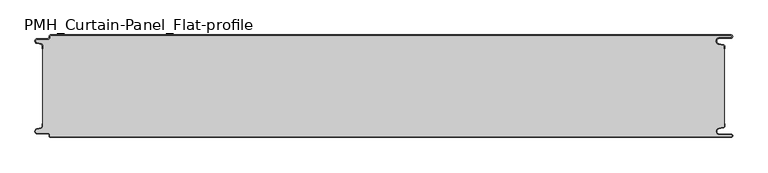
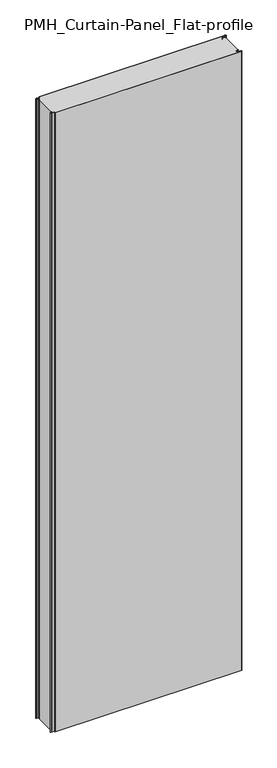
"""IFC4 building model written with IfcOpenShell, lengths in millimetres: plate geometry, PMH_Curtain-Panel_Flat-profile : ACH_PMH_Stone-wool-Panel_150M."""

from ifc_helpers import new_model, si_unit, point, frame, frame_2d, origin, origin_with_axes, place, context, project, spatial, polyline, circle_curve, trimmed, segment, composite_curve, outline, extrude, source, transform, mapped, element, save
from ifc_brep_helpers import plane_surface, cylinder_surface, revolved_surface, advanced_brep


def pmh_curtain_panel_flat_profile_8f51420d(model_context):
    return source(origin(), model_context, "Body", "SolidModel", [
        advanced_brep(
        [(508.1, 0.0, 3500.0), (-487.4, 0.0, 3500.0), (-489.4, -2.0, 3500.0), (-489.4, -3.4, 3500.0), (-491.4, -5.4, 3500.0), (-506.9, -5.4, 3500.0), (-507.7098239, -12.5077322, 3500.0), (-501.5500979, -13.929817, 3500.0), (-500.0, -15.878557, 3500.0), (-500.0, -20.0, 3500.0), (-499.2, -20.0, 3500.0), (-499.2, -15.878557, 3500.0), (-501.370137, -13.1503208, 3500.0), (-507.529863, -11.728236, 3500.0), (-506.9, -6.2, 3500.0), (-491.4, -6.2, 3500.0), (-488.6, -3.4, 3500.0), (-488.6, -2.0, 3500.0), (-487.4, -0.8, 3500.0), (508.1, -0.8, 3500.0), (508.1, -4.2, 3500.0), (491.1, -4.2, 3500.0), (490.2664884, -13.7270771, 3500.0), (496.7125669, -14.8636953, 3500.0), (498.2, -16.6363492, 3500.0), (498.2, -20.0, 3500.0), (499.0, -20.0, 3500.0), (499.0, -16.6363492, 3500.0), (496.8514855, -14.0758491, 3500.0), (490.405407, -12.939231, 3500.0), (491.1, -5.0, 3500.0), (508.1, -5.0, 3500.0), (510.6, -2.5000002, 3500.0), (-487.4, 0.0, 0.0), (508.1, 0.0, 0.0), (510.6, -2.4999998, 0.0), (508.1, -5.0, 0.0), (491.1, -5.0, 0.0), (490.405407, -12.939231, 0.0), (496.8514855, -14.0758491, 0.0), (499.0, -16.6363492, 0.0), (499.0, -20.0, 0.0), (498.2, -20.0, 0.0), (498.2, -16.6363492, 0.0), (496.7125669, -14.8636953, 0.0), (490.2664884, -13.7270771, 0.0), (491.1, -4.2, 0.0), (508.1, -4.2, 0.0), (508.1, -0.8, 0.0), (-487.4, -0.8, 0.0), (-488.6, -2.0, 0.0), (-488.6, -3.4, 0.0), (-491.4, -6.2, 0.0), (-506.9, -6.2, 0.0), (-507.529863, -11.7282362, 0.0), (-501.370137, -13.150321, 0.0), (-499.2, -15.878557, 0.0), (-499.2, -20.0, 0.0), (-500.0, -20.0, 0.0), (-500.0, -15.878557, 0.0), (-501.5500978, -13.9298169, 0.0), (-507.7098239, -12.507732, 0.0), (-506.9, -5.4, 0.0), (-491.4, -5.4, 0.0), (-489.4, -3.4, 0.0), (-489.4, -2.0, 0.0)],
        [
            (0, 1),
            (1, 2, circle_curve(frame((-487.4, -2.0, 3500.0), z_axis=(0.0, 0.0, 1.0), x_axis=(1.0, 0.0, 0.0)), 2.0)),
            (2, 3),
            (3, 4, circle_curve(frame((-491.4, -3.4, 3500.0), z_axis=(0.0, 0.0, -1.0), x_axis=(1.0, 0.0, 0.0)), 2.0)),
            (4, 5),
            (5, 6, circle_curve(frame((-506.9, -9.0, 3500.0), z_axis=(0.0, 0.0, 1.0), x_axis=(1.0, 0.0, 0.0)), 3.6)),
            (6, 7),
            (7, 8, circle_curve(frame((-502.0, -15.878557, 3500.0), z_axis=(0.0, 0.0, -1.0), x_axis=(1.0, 0.0, 0.0)), 2.0)),
            (8, 9),
            (9, 10),
            (10, 11),
            (11, 12, circle_curve(frame((-502.0, -15.878557, 3500.0), z_axis=(0.0, 0.0, 1.0), x_axis=(1.0, 0.0, 0.0)), 2.8)),
            (12, 13),
            (13, 14, circle_curve(frame((-506.9, -9.0, 3500.0), z_axis=(0.0, 0.0, -1.0), x_axis=(1.0, 0.0, 0.0)), 2.8)),
            (14, 15),
            (15, 16, circle_curve(frame((-491.4, -3.4, 3500.0), z_axis=(0.0, 0.0, 1.0), x_axis=(1.0, 0.0, 0.0)), 2.8)),
            (16, 17),
            (17, 18, circle_curve(frame((-487.4, -2.0, 3500.0), z_axis=(0.0, 0.0, -1.0), x_axis=(1.0, 0.0, 0.0)), 1.2)),
            (18, 19),
            (19, 20, circle_curve(frame((508.1, -2.5, 3500.0), z_axis=(0.0, 0.0, -1.0), x_axis=(1.0, 0.0, 0.0)), 1.7)),
            (20, 21),
            (21, 22, circle_curve(frame((491.1, -9.0, 3500.0), z_axis=(0.0, 0.0, 1.0), x_axis=(1.0, 0.0, 0.0)), 4.8)),
            (22, 23),
            (23, 24, circle_curve(frame((496.4, -16.6363492, 3500.0), z_axis=(0.0, 0.0, -1.0), x_axis=(1.0, 0.0, 0.0)), 1.8)),
            (24, 25),
            (25, 26),
            (26, 27),
            (27, 28, circle_curve(frame((496.4, -16.6363492, 3500.0), z_axis=(0.0, 0.0, 1.0), x_axis=(1.0, 0.0, 0.0)), 2.6)),
            (28, 29),
            (29, 30, circle_curve(frame((491.1, -9.0, 3500.0), z_axis=(0.0, 0.0, -1.0), x_axis=(1.0, 0.0, 0.0)), 4.0)),
            (30, 31),
            (31, 32, circle_curve(frame((508.1, -2.5, 3500.0), z_axis=(0.0, 0.0, 1.0), x_axis=(1.0, 0.0, 0.0)), 2.5)),
            (32, 0, circle_curve(frame((508.1, -2.5, 3500.0), z_axis=(0.0, 0.0, 1.0), x_axis=(1.0, 0.0, 0.0)), 2.5)),
            (33, 34),
            (34, 35, circle_curve(frame((508.1, -2.5, 0.0), z_axis=(0.0, 0.0, -1.0), x_axis=(1.0, 0.0, 0.0)), 2.5)),
            (35, 36, circle_curve(frame((508.1, -2.5, 0.0), z_axis=(0.0, 0.0, -1.0), x_axis=(1.0, 0.0, 0.0)), 2.5)),
            (36, 37),
            (37, 38, circle_curve(frame((491.1, -9.0, 0.0), z_axis=(0.0, 0.0, 1.0), x_axis=(1.0, 0.0, 0.0)), 4.0)),
            (38, 39),
            (39, 40, circle_curve(frame((496.4, -16.6363492, 0.0), z_axis=(0.0, 0.0, -1.0), x_axis=(1.0, 0.0, 0.0)), 2.6)),
            (40, 41),
            (41, 42),
            (42, 43),
            (43, 44, circle_curve(frame((496.4, -16.6363492, 0.0), z_axis=(0.0, 0.0, 1.0), x_axis=(1.0, 0.0, 0.0)), 1.8)),
            (44, 45),
            (45, 46, circle_curve(frame((491.1, -9.0, 0.0), z_axis=(0.0, 0.0, -1.0), x_axis=(1.0, 0.0, 0.0)), 4.8)),
            (46, 47),
            (47, 48, circle_curve(frame((508.1, -2.5, 0.0), z_axis=(0.0, 0.0, 1.0), x_axis=(1.0, 0.0, 0.0)), 1.7)),
            (48, 49),
            (49, 50, circle_curve(frame((-487.4, -2.0, 0.0), z_axis=(0.0, 0.0, 1.0), x_axis=(1.0, 0.0, 0.0)), 1.2)),
            (50, 51),
            (51, 52, circle_curve(frame((-491.4, -3.4, 0.0), z_axis=(0.0, 0.0, -1.0), x_axis=(1.0, 0.0, 0.0)), 2.8)),
            (52, 53),
            (53, 54, circle_curve(frame((-506.9, -9.0, 0.0), z_axis=(0.0, 0.0, 1.0), x_axis=(1.0, 0.0, 0.0)), 2.8)),
            (54, 55),
            (55, 56, circle_curve(frame((-502.0, -15.878557, 0.0), z_axis=(0.0, 0.0, -1.0), x_axis=(1.0, 0.0, 0.0)), 2.8)),
            (56, 57),
            (57, 58),
            (58, 59),
            (59, 60, circle_curve(frame((-502.0, -15.878557, 0.0), z_axis=(0.0, 0.0, 1.0), x_axis=(1.0, 0.0, 0.0)), 2.0)),
            (60, 61),
            (61, 62, circle_curve(frame((-506.9, -9.0, 0.0), z_axis=(0.0, 0.0, -1.0), x_axis=(1.0, 0.0, 0.0)), 3.6)),
            (62, 63),
            (63, 64, circle_curve(frame((-491.4, -3.4, 0.0), z_axis=(0.0, 0.0, 1.0), x_axis=(1.0, 0.0, 0.0)), 2.0)),
            (64, 65),
            (65, 33, circle_curve(frame((-487.4, -2.0, 0.0), z_axis=(0.0, 0.0, -1.0), x_axis=(1.0, 0.0, 0.0)), 2.0)),
            (1, 33),
            (65, 2),
            (64, 3),
            (63, 4),
            (62, 5),
            (61, 6),
            (60, 7),
            (59, 8),
            (58, 9),
            (57, 10),
            (56, 11),
            (55, 12),
            (54, 13),
            (53, 14),
            (52, 15),
            (51, 16),
            (50, 17),
            (49, 18),
            (48, 19),
            (47, 20),
            (46, 21),
            (45, 22),
            (44, 23),
            (43, 24),
            (42, 25),
            (41, 26),
            (40, 27),
            (39, 28),
            (38, 29),
            (37, 30),
            (36, 31),
            (34, 0),
        ],
        [
            plane_surface(frame((-500.0, 0.0, 3500.0), z_axis=(0.0, 0.0, 1.0), x_axis=(0.0, 1.0, 0.0))),
            plane_surface(frame((-500.0, 0.0, 0.0), z_axis=(0.0, 0.0, -1.0), x_axis=(0.0, 1.0, 0.0))),
            cylinder_surface(frame((-487.4, -2.0, 3500.0), z_axis=(0.0, 0.0, 1.0), x_axis=(1.0, 0.0, 0.0)), 2.0),
            plane_surface(frame((-489.4, -2.0, 3500.0), z_axis=(-1.0, 0.0, 0.0), x_axis=(0.0, 0.0, -1.0))),
            revolved_surface(polyline([(-489.4, -3.4, 0.0), (-489.4, -3.4, 3500.0)]), (-491.4, -3.4, 3500.0), (0.0, 0.0, -1.0)),
            plane_surface(frame((-491.4, -5.4, 3500.0), z_axis=(0.0, 1.0, 0.0), x_axis=(0.0, 0.0, -1.0))),
            cylinder_surface(frame((-506.9, -9.0, 3500.0), z_axis=(0.0, 0.0, 1.0), x_axis=(1.0, 0.0, 0.0)), 3.6),
            plane_surface(frame((-507.7098239, -12.507732, 3500.0), z_axis=(-0.2249510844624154, -0.9743700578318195, 0.0), x_axis=(0.0, 0.0, -1.0))),
            revolved_surface(polyline([(-500.0, -15.878557, 0.0), (-500.0, -15.878557, 3500.0)]), (-502.0, -15.878557, 3500.0), (0.0, 0.0, -1.0)),
            plane_surface(frame((-500.0, -15.878557, 3500.0), z_axis=(-1.0, 0.0, 0.0), x_axis=(0.0, 0.0, -1.0))),
            plane_surface(frame((-500.0, -20.0, 3500.0), z_axis=(0.0, -1.0, 0.0), x_axis=(0.0, 0.0, -1.0))),
            plane_surface(frame((-499.2, -20.0, 3500.0), z_axis=(1.0, 0.0, 0.0), x_axis=(0.0, 0.0, -1.0))),
            cylinder_surface(frame((-502.0, -15.878557, 3500.0), z_axis=(0.0, 0.0, 1.0), x_axis=(1.0, 0.0, 0.0)), 2.8),
            plane_surface(frame((-501.370137, -13.150321, 3500.0), z_axis=(0.22495108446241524, 0.9743700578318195, 0.0), x_axis=(0.0, 0.0, -1.0))),
            revolved_surface(polyline([(-504.09999999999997, -9.0, 0.0), (-504.09999999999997, -9.0, 3500.0)]), (-506.9, -9.0, 3500.0), (0.0, 0.0, -1.0)),
            plane_surface(frame((-506.9, -6.2, 3500.0), z_axis=(0.0, -1.0, 0.0), x_axis=(0.0, 0.0, -1.0))),
            cylinder_surface(frame((-491.4, -3.4, 3500.0), z_axis=(0.0, 0.0, 1.0), x_axis=(1.0, 0.0, 0.0)), 2.8),
            plane_surface(frame((-488.6, -3.4, 3500.0), z_axis=(1.0, 0.0, 0.0), x_axis=(0.0, 0.0, -1.0))),
            revolved_surface(polyline([(-486.2, -2.0, 0.0), (-486.2, -2.0, 3500.0)]), (-487.4, -2.0, 3500.0), (0.0, 0.0, -1.0)),
            plane_surface(frame((-487.4, -0.8, 3500.0), z_axis=(0.0, -1.0, 0.0), x_axis=(0.0, 0.0, -1.0))),
            revolved_surface(polyline([(509.8, -2.5, 0.0), (509.8, -2.5, 3500.0)]), (508.1, -2.5, 3500.0), (0.0, 0.0, -1.0)),
            plane_surface(frame((508.1, -4.2, 3500.0), z_axis=(0.0, 1.0, 0.0), x_axis=(0.0, 0.0, -1.0))),
            cylinder_surface(frame((491.1, -9.0, 3500.0), z_axis=(0.0, 0.0, 1.0), x_axis=(1.0, 0.0, 0.0)), 4.8),
            plane_surface(frame((490.2664884, -13.7270771, 3500.0), z_axis=(-0.17364826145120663, -0.984807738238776, 0.0), x_axis=(0.0, 0.0, -1.0))),
            revolved_surface(polyline([(498.2, -16.6363492, 0.0), (498.2, -16.6363492, 3500.0)]), (496.4, -16.6363492, 3500.0), (0.0, 0.0, -1.0)),
            plane_surface(frame((498.2, -16.6363492, 3500.0), z_axis=(-1.0, 0.0, 0.0), x_axis=(0.0, 0.0, -1.0))),
            plane_surface(frame((498.2, -20.0, 3500.0), z_axis=(0.0, -1.0, 0.0), x_axis=(0.0, 0.0, -1.0))),
            plane_surface(frame((499.0, -20.0, 3500.0), z_axis=(1.0, 0.0, 0.0), x_axis=(0.0, 0.0, -1.0))),
            cylinder_surface(frame((496.4, -16.6363492, 3500.0), z_axis=(0.0, 0.0, 1.0), x_axis=(1.0, 0.0, 0.0)), 2.6),
            plane_surface(frame((496.8514855, -14.0758491, 3500.0), z_axis=(0.17364826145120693, 0.9848077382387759, 0.0), x_axis=(0.0, 0.0, -1.0))),
            revolved_surface(polyline([(495.1, -9.0, 0.0), (495.1, -9.0, 3500.0)]), (491.1, -9.0, 3500.0), (0.0, 0.0, -1.0)),
            plane_surface(frame((491.1, -5.0, 3500.0), z_axis=(0.0, -1.0, 0.0), x_axis=(0.0, 0.0, -1.0))),
            cylinder_surface(frame((508.1, -2.5, 3500.0), z_axis=(0.0, 0.0, 1.0), x_axis=(1.0, 0.0, 0.0)), 2.5),
            plane_surface(frame((490.5783588, 0.0, 3500.0), z_axis=(0.0, 1.0, 0.0), x_axis=(0.0, 0.0, -1.0))),
        ],
        [
            (0, [[1, 2, 3, 4, 5, 6, 7, 8, 9, 10, 11, 12, 13, 14, 15, 16, 17, 18, 19, 20, 21, 22, 23, 24, 25, 26, 27, 28, 29, 30, 31, 32, 33]]),
            (1, [[34, 35, 36, 37, 38, 39, 40, 41, 42, 43, 44, 45, 46, 47, 48, 49, 50, 51, 52, 53, 54, 55, 56, 57, 58, 59, 60, 61, 62, 63, 64, 65, 66]]),
            (2, [[-2, 67, -66, 68]]),
            (3, [[-3, -68, -65, 69]]),
            (4, [[-4, -69, -64, 70]]),
            (5, [[-5, -70, -63, 71]]),
            (6, [[-6, -71, -62, 72]]),
            (7, [[-7, -72, -61, 73]]),
            (8, [[-8, -73, -60, 74]]),
            (9, [[-9, -74, -59, 75]]),
            (10, [[-10, -75, -58, 76]]),
            (11, [[-11, -76, -57, 77]]),
            (12, [[-12, -77, -56, 78]]),
            (13, [[-13, -78, -55, 79]]),
            (14, [[-14, -79, -54, 80]]),
            (15, [[-15, -80, -53, 81]]),
            (16, [[-16, -81, -52, 82]]),
            (17, [[-17, -82, -51, 83]]),
            (18, [[-18, -83, -50, 84]]),
            (19, [[-19, -84, -49, 85]]),
            (20, [[-20, -85, -48, 86]]),
            (21, [[-21, -86, -47, 87]]),
            (22, [[-22, -87, -46, 88]]),
            (23, [[-23, -88, -45, 89]]),
            (24, [[-24, -89, -44, 90]]),
            (25, [[-25, -90, -43, 91]]),
            (26, [[-26, -91, -42, 92]]),
            (27, [[-27, -92, -41, 93]]),
            (28, [[-28, -93, -40, 94]]),
            (29, [[-29, -94, -39, 95]]),
            (30, [[-30, -95, -38, 96]]),
            (31, [[-31, -96, -37, 97]]),
            (32, [[-97, -36, -35, 98, -33, -32]]),
            (33, [[-1, -98, -34, -67]]),
        ],
    ),
        extrude(outline(composite_curve([segment(polyline([(-499.2, -134.1214426), (-499.2, -15.8785573)]), True, "CONTINUOUS"), segment(trimmed(circle_curve(frame_2d((-502.0, -15.8785573)), 2.8), [point((-499.2, -15.8785573))], [point((-501.370137, -13.1503212))], True, "CARTESIAN"), True, "CONTINUOUS"), segment(polyline([(-501.370137, -13.1503212), (-507.5298631, -11.7282362)]), True, "CONTINUOUS"), segment(trimmed(circle_curve(frame_2d((-506.9, -9.0)), 2.8), [point((-507.5298631, -11.7282362))], [point((-506.9, -6.2))], False, "CARTESIAN"), True, "CONTINUOUS"), segment(polyline([(-506.9, -6.2), (-491.4000001, -6.2)]), True, "CONTINUOUS"), segment(trimmed(circle_curve(frame_2d((-491.4000001, -3.4)), 2.8), [point((-491.4000001, -6.2))], [point((-488.6000001, -3.4))], True, "CARTESIAN"), True, "CONTINUOUS"), segment(polyline([(-488.6000001, -3.4), (-488.6000001, -2.0)]), True, "CONTINUOUS"), segment(trimmed(circle_curve(frame_2d((-487.4000001, -2.0)), 1.2), [point((-488.6000001, -2.0))], [point((-487.4000001, -0.8))], False, "CARTESIAN"), True, "CONTINUOUS"), segment(polyline([(-487.4000001, -0.8), (508.1, -0.8)]), True, "CONTINUOUS"), segment(trimmed(circle_curve(frame_2d((508.1, -2.5)), 1.7), [point((508.1, -0.8))], [point((508.1, -4.2))], False, "CARTESIAN"), True, "CONTINUOUS"), segment(polyline([(508.1, -4.2), (491.1, -4.2)]), True, "CONTINUOUS"), segment(trimmed(circle_curve(frame_2d((491.1, -9.0)), 4.8), [point((491.1, -4.2))], [point((490.2664883, -13.7270771))], True, "CARTESIAN"), True, "CONTINUOUS"), segment(polyline([(490.2664883, -13.7270771), (496.7125668, -14.8636953)]), True, "CONTINUOUS"), segment(trimmed(circle_curve(frame_2d((496.4, -16.6363492)), 1.8), [point((496.7125668, -14.8636953))], [point((498.2, -16.6363492))], False, "CARTESIAN"), True, "CONTINUOUS"), segment(polyline([(498.2, -16.6363492), (498.2, -133.3636508)]), True, "CONTINUOUS"), segment(trimmed(circle_curve(frame_2d((496.4, -133.3636508)), 1.8), [point((498.2, -133.3636508))], [point((496.7125668, -135.1363047))], False, "CARTESIAN"), True, "CONTINUOUS"), segment(polyline([(496.7125668, -135.1363047), (490.2664883, -136.2729229)]), True, "CONTINUOUS"), segment(trimmed(circle_curve(frame_2d((491.1, -141.0)), 4.8), [point((490.2664883, -136.2729229))], [point((491.1, -145.8))], True, "CARTESIAN"), True, "CONTINUOUS"), segment(polyline([(491.1, -145.8), (508.1, -145.8)]), True, "CONTINUOUS"), segment(trimmed(circle_curve(frame_2d((508.1, -147.5)), 1.7), [point((508.1, -145.8))], [point((508.1, -149.2))], False, "CARTESIAN"), True, "CONTINUOUS"), segment(polyline([(508.1, -149.2), (-487.4000001, -149.2)]), True, "CONTINUOUS"), segment(trimmed(circle_curve(frame_2d((-487.4000001, -148.0)), 1.2), [point((-487.4000001, -149.2))], [point((-488.6000001, -148.0))], False, "CARTESIAN"), True, "CONTINUOUS"), segment(polyline([(-488.6000001, -148.0), (-488.6000001, -146.6)]), True, "CONTINUOUS"), segment(trimmed(circle_curve(frame_2d((-491.4000001, -146.6)), 2.8), [point((-488.6000001, -146.6))], [point((-491.4000001, -143.8))], True, "CARTESIAN"), True, "CONTINUOUS"), segment(polyline([(-491.4000001, -143.8), (-506.9, -143.8)]), True, "CONTINUOUS"), segment(trimmed(circle_curve(frame_2d((-506.9, -141.0)), 2.8), [point((-506.9, -143.8))], [point((-507.5298631, -138.2717638))], False, "CARTESIAN"), True, "CONTINUOUS"), segment(polyline([(-507.5298631, -138.2717638), (-501.370137, -136.8496788)]), True, "CONTINUOUS"), segment(trimmed(circle_curve(frame_2d((-502.0, -134.1214426)), 2.8), [point((-501.370137, -136.8496788))], [point((-499.2, -134.1214426))], True, "CARTESIAN"), True, "CONTINUOUS")], self_intersect=False)), origin_with_axes(), (0.0, 0.0, 1.0), 3500.0),
        advanced_brep(
        [(-487.4, -150.0, 3500.0), (508.1, -150.0, 3500.0), (510.6, -147.5000002, 3500.0), (508.1, -145.0, 3500.0), (491.1, -145.0, 3500.0), (490.405407, -137.060769, 3500.0), (496.8514855, -135.9241509, 3500.0), (499.0, -133.3636508, 3500.0), (499.0, -130.0, 3500.0), (498.2, -130.0, 3500.0), (498.2, -133.3636508, 3500.0), (496.7125669, -135.1363047, 3500.0), (490.2664884, -136.2729229, 3500.0), (491.1, -145.8, 3500.0), (508.1, -145.8, 3500.0), (508.1, -149.2, 3500.0), (-487.4, -149.2, 3500.0), (-488.6, -148.0, 3500.0), (-488.6, -146.6, 3500.0), (-491.4, -143.8, 3500.0), (-506.9, -143.8, 3500.0), (-507.529863, -138.2717638, 3500.0), (-501.370137, -136.849679, 3500.0), (-499.2, -134.121443, 3500.0), (-499.2, -130.0, 3500.0), (-500.0, -130.0, 3500.0), (-500.0, -134.121443, 3500.0), (-501.5500978, -136.0701831, 3500.0), (-507.7098239, -137.492268, 3500.0), (-506.9, -144.6, 3500.0), (-491.4, -144.6, 3500.0), (-489.4, -146.6, 3500.0), (-489.4, -148.0, 3500.0), (508.1, -150.0, 0.0), (-487.4, -150.0, 0.0), (-489.4, -148.0, 0.0), (-489.4, -146.6, 0.0), (-491.4, -144.6, 0.0), (-506.9, -144.6, 0.0), (-507.7098239, -137.4922678, 0.0), (-501.5500979, -136.070183, 0.0), (-500.0, -134.121443, 0.0), (-500.0, -130.0, 0.0), (-499.2, -130.0, 0.0), (-499.2, -134.121443, 0.0), (-501.370137, -136.8496792, 0.0), (-507.529863, -138.271764, 0.0), (-506.9, -143.8, 0.0), (-491.4, -143.8, 0.0), (-488.6, -146.6, 0.0), (-488.6, -148.0, 0.0), (-487.4, -149.2, 0.0), (508.1, -149.2, 0.0), (508.1, -145.8, 0.0), (491.1, -145.8, 0.0), (490.2664884, -136.2729229, 0.0), (496.7125669, -135.1363047, 0.0), (498.2, -133.3636508, 0.0), (498.2, -130.0, 0.0), (499.0, -130.0, 0.0), (499.0, -133.3636508, 0.0), (496.8514855, -135.9241509, 0.0), (490.405407, -137.060769, 0.0), (491.1, -145.0, 0.0), (508.1, -145.0, 0.0), (510.6, -147.4999998, 0.0)],
        [
            (0, 1),
            (1, 2, circle_curve(frame((508.1, -147.5, 3500.0), z_axis=(0.0, 0.0, 1.0), x_axis=(1.0, 0.0, 0.0)), 2.5)),
            (2, 3, circle_curve(frame((508.1, -147.5, 3500.0), z_axis=(0.0, 0.0, 1.0), x_axis=(1.0, 0.0, 0.0)), 2.5)),
            (3, 4),
            (4, 5, circle_curve(frame((491.1, -141.0, 3500.0), z_axis=(0.0, 0.0, -1.0), x_axis=(1.0, 0.0, 0.0)), 4.0)),
            (5, 6),
            (6, 7, circle_curve(frame((496.4, -133.3636508, 3500.0), z_axis=(0.0, 0.0, 1.0), x_axis=(1.0, 0.0, 0.0)), 2.6)),
            (7, 8),
            (8, 9),
            (9, 10),
            (10, 11, circle_curve(frame((496.4, -133.3636508, 3500.0), z_axis=(0.0, 0.0, -1.0), x_axis=(1.0, 0.0, 0.0)), 1.8)),
            (11, 12),
            (12, 13, circle_curve(frame((491.1, -141.0, 3500.0), z_axis=(0.0, 0.0, 1.0), x_axis=(1.0, 0.0, 0.0)), 4.8)),
            (13, 14),
            (14, 15, circle_curve(frame((508.1, -147.5, 3500.0), z_axis=(0.0, 0.0, -1.0), x_axis=(1.0, 0.0, 0.0)), 1.7)),
            (15, 16),
            (16, 17, circle_curve(frame((-487.4, -148.0, 3500.0), z_axis=(0.0, 0.0, -1.0), x_axis=(1.0, 0.0, 0.0)), 1.2)),
            (17, 18),
            (18, 19, circle_curve(frame((-491.4, -146.6, 3500.0), z_axis=(0.0, 0.0, 1.0), x_axis=(1.0, 0.0, 0.0)), 2.8)),
            (19, 20),
            (20, 21, circle_curve(frame((-506.9, -141.0, 3500.0), z_axis=(0.0, 0.0, -1.0), x_axis=(1.0, 0.0, 0.0)), 2.8)),
            (21, 22),
            (22, 23, circle_curve(frame((-502.0, -134.121443, 3500.0), z_axis=(0.0, 0.0, 1.0), x_axis=(1.0, 0.0, 0.0)), 2.8)),
            (23, 24),
            (24, 25),
            (25, 26),
            (26, 27, circle_curve(frame((-502.0, -134.121443, 3500.0), z_axis=(0.0, 0.0, -1.0), x_axis=(1.0, 0.0, 0.0)), 2.0)),
            (27, 28),
            (28, 29, circle_curve(frame((-506.9, -141.0, 3500.0), z_axis=(0.0, 0.0, 1.0), x_axis=(1.0, 0.0, 0.0)), 3.6)),
            (29, 30),
            (30, 31, circle_curve(frame((-491.4, -146.6, 3500.0), z_axis=(0.0, 0.0, -1.0), x_axis=(1.0, 0.0, 0.0)), 2.0)),
            (31, 32),
            (32, 0, circle_curve(frame((-487.4, -148.0, 3500.0), z_axis=(0.0, 0.0, 1.0), x_axis=(1.0, 0.0, 0.0)), 2.0)),
            (33, 34),
            (34, 35, circle_curve(frame((-487.4, -148.0, 0.0), z_axis=(0.0, 0.0, -1.0), x_axis=(1.0, 0.0, 0.0)), 2.0)),
            (35, 36),
            (36, 37, circle_curve(frame((-491.4, -146.6, 0.0), z_axis=(0.0, 0.0, 1.0), x_axis=(1.0, 0.0, 0.0)), 2.0)),
            (37, 38),
            (38, 39, circle_curve(frame((-506.9, -141.0, 0.0), z_axis=(0.0, 0.0, -1.0), x_axis=(1.0, 0.0, 0.0)), 3.6)),
            (39, 40),
            (40, 41, circle_curve(frame((-502.0, -134.121443, 0.0), z_axis=(0.0, 0.0, 1.0), x_axis=(1.0, 0.0, 0.0)), 2.0)),
            (41, 42),
            (42, 43),
            (43, 44),
            (44, 45, circle_curve(frame((-502.0, -134.121443, 0.0), z_axis=(0.0, 0.0, -1.0), x_axis=(1.0, 0.0, 0.0)), 2.8)),
            (45, 46),
            (46, 47, circle_curve(frame((-506.9, -141.0, 0.0), z_axis=(0.0, 0.0, 1.0), x_axis=(1.0, 0.0, 0.0)), 2.8)),
            (47, 48),
            (48, 49, circle_curve(frame((-491.4, -146.6, 0.0), z_axis=(0.0, 0.0, -1.0), x_axis=(1.0, 0.0, 0.0)), 2.8)),
            (49, 50),
            (50, 51, circle_curve(frame((-487.4, -148.0, 0.0), z_axis=(0.0, 0.0, 1.0), x_axis=(1.0, 0.0, 0.0)), 1.2)),
            (51, 52),
            (52, 53, circle_curve(frame((508.1, -147.5, 0.0), z_axis=(0.0, 0.0, 1.0), x_axis=(1.0, 0.0, 0.0)), 1.7)),
            (53, 54),
            (54, 55, circle_curve(frame((491.1, -141.0, 0.0), z_axis=(0.0, 0.0, -1.0), x_axis=(1.0, 0.0, 0.0)), 4.8)),
            (55, 56),
            (56, 57, circle_curve(frame((496.4, -133.3636508, 0.0), z_axis=(0.0, 0.0, 1.0), x_axis=(1.0, 0.0, 0.0)), 1.8)),
            (57, 58),
            (58, 59),
            (59, 60),
            (60, 61, circle_curve(frame((496.4, -133.3636508, 0.0), z_axis=(0.0, 0.0, -1.0), x_axis=(1.0, 0.0, 0.0)), 2.6)),
            (61, 62),
            (62, 63, circle_curve(frame((491.1, -141.0, 0.0), z_axis=(0.0, 0.0, 1.0), x_axis=(1.0, 0.0, 0.0)), 4.0)),
            (63, 64),
            (64, 65, circle_curve(frame((508.1, -147.5, 0.0), z_axis=(0.0, 0.0, -1.0), x_axis=(1.0, 0.0, 0.0)), 2.5)),
            (65, 33, circle_curve(frame((508.1, -147.5, 0.0), z_axis=(0.0, 0.0, -1.0), x_axis=(1.0, 0.0, 0.0)), 2.5)),
            (0, 34),
            (33, 1),
            (64, 3),
            (63, 4),
            (62, 5),
            (61, 6),
            (60, 7),
            (59, 8),
            (58, 9),
            (57, 10),
            (56, 11),
            (55, 12),
            (54, 13),
            (53, 14),
            (52, 15),
            (51, 16),
            (50, 17),
            (49, 18),
            (48, 19),
            (47, 20),
            (46, 21),
            (45, 22),
            (44, 23),
            (43, 24),
            (42, 25),
            (41, 26),
            (40, 27),
            (39, 28),
            (38, 29),
            (37, 30),
            (36, 31),
            (35, 32),
        ],
        [
            plane_surface(frame((-500.0, -150.0, 3500.0), z_axis=(0.0, 0.0, 1.0), x_axis=(0.0, 1.0, 0.0))),
            plane_surface(frame((-500.0, -150.0, 0.0), z_axis=(0.0, 0.0, -1.0), x_axis=(0.0, 1.0, 0.0))),
            plane_surface(frame((490.5783588, -150.0, 3500.0), z_axis=(0.0, -1.0, 0.0), x_axis=(0.0, 0.0, -1.0))),
            cylinder_surface(frame((508.1, -147.5, 3500.0), z_axis=(0.0, 0.0, 1.0), x_axis=(1.0, 0.0, 0.0)), 2.5),
            plane_surface(frame((508.1, -145.0, 3500.0), z_axis=(0.0, 1.0, 0.0), x_axis=(0.0, 0.0, -1.0))),
            revolved_surface(polyline([(495.1, -141.0, 0.0), (495.1, -141.0, 3500.0)]), (491.1, -141.0, 3500.0), (0.0, 0.0, -1.0)),
            plane_surface(frame((490.405407, -137.060769, 3500.0), z_axis=(0.17364826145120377, -0.9848077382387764, 0.0), x_axis=(0.0, 0.0, -1.0))),
            cylinder_surface(frame((496.4, -133.3636508, 3500.0), z_axis=(0.0, 0.0, 1.0), x_axis=(1.0, 0.0, 0.0)), 2.6),
            plane_surface(frame((499.0, -133.3636508, 3500.0), z_axis=(1.0, 0.0, 0.0), x_axis=(0.0, 0.0, -1.0))),
            plane_surface(frame((499.0, -130.0, 3500.0), z_axis=(0.0, 1.0, 0.0), x_axis=(0.0, 0.0, -1.0))),
            plane_surface(frame((498.2, -130.0, 3500.0), z_axis=(-1.0, 0.0, 0.0), x_axis=(0.0, 0.0, -1.0))),
            revolved_surface(polyline([(498.2, -133.3636508, 0.0), (498.2, -133.3636508, 3500.0)]), (496.4, -133.3636508, 3500.0), (0.0, 0.0, -1.0)),
            plane_surface(frame((496.7125669, -135.1363047, 3500.0), z_axis=(-0.17364826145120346, 0.9848077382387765, 0.0), x_axis=(0.0, 0.0, -1.0))),
            cylinder_surface(frame((491.1, -141.0, 3500.0), z_axis=(0.0, 0.0, 1.0), x_axis=(1.0, 0.0, 0.0)), 4.8),
            plane_surface(frame((491.1, -145.8, 3500.0), z_axis=(0.0, -1.0, 0.0), x_axis=(0.0, 0.0, -1.0))),
            revolved_surface(polyline([(509.8, -147.5, 0.0), (509.8, -147.5, 3500.0)]), (508.1, -147.5, 3500.0), (0.0, 0.0, -1.0)),
            plane_surface(frame((508.1, -149.2, 3500.0), z_axis=(0.0, 1.0, 0.0), x_axis=(0.0, 0.0, -1.0))),
            revolved_surface(polyline([(-486.2, -148.0, 0.0), (-486.2, -148.0, 3500.0)]), (-487.4, -148.0, 3500.0), (0.0, 0.0, -1.0)),
            plane_surface(frame((-488.6, -148.0, 3500.0), z_axis=(1.0, 0.0, 0.0), x_axis=(0.0, 0.0, -1.0))),
            cylinder_surface(frame((-491.4, -146.6, 3500.0), z_axis=(0.0, 0.0, 1.0), x_axis=(1.0, 0.0, 0.0)), 2.8),
            plane_surface(frame((-491.4, -143.8, 3500.0), z_axis=(0.0, 1.0, 0.0), x_axis=(0.0, 0.0, -1.0))),
            revolved_surface(polyline([(-504.09999999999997, -141.0, 0.0), (-504.09999999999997, -141.0, 3500.0)]), (-506.9, -141.0, 3500.0), (0.0, 0.0, -1.0)),
            plane_surface(frame((-507.529863, -138.271764, 3500.0), z_axis=(0.2249510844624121, -0.9743700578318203, 0.0), x_axis=(0.0, 0.0, -1.0))),
            cylinder_surface(frame((-502.0, -134.121443, 3500.0), z_axis=(0.0, 0.0, 1.0), x_axis=(1.0, 0.0, 0.0)), 2.8),
            plane_surface(frame((-499.2, -134.121443, 3500.0), z_axis=(1.0, 0.0, 0.0), x_axis=(0.0, 0.0, -1.0))),
            plane_surface(frame((-499.2, -130.0, 3500.0), z_axis=(0.0, 1.0, 0.0), x_axis=(0.0, 0.0, -1.0))),
            plane_surface(frame((-500.0, -130.0, 3500.0), z_axis=(-1.0, 0.0, 0.0), x_axis=(0.0, 0.0, -1.0))),
            revolved_surface(polyline([(-500.0, -134.121443, 0.0), (-500.0, -134.121443, 3500.0)]), (-502.0, -134.121443, 3500.0), (0.0, 0.0, -1.0)),
            plane_surface(frame((-501.5500979, -136.070183, 3500.0), z_axis=(-0.22495108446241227, 0.9743700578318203, 0.0), x_axis=(0.0, 0.0, -1.0))),
            cylinder_surface(frame((-506.9, -141.0, 3500.0), z_axis=(0.0, 0.0, 1.0), x_axis=(1.0, 0.0, 0.0)), 3.6),
            plane_surface(frame((-506.9, -144.6, 3500.0), z_axis=(0.0, -1.0, 0.0), x_axis=(0.0, 0.0, -1.0))),
            revolved_surface(polyline([(-489.4, -146.6, 0.0), (-489.4, -146.6, 3500.0)]), (-491.4, -146.6, 3500.0), (0.0, 0.0, -1.0)),
            plane_surface(frame((-489.4, -146.6, 3500.0), z_axis=(-1.0, 0.0, 0.0), x_axis=(0.0, 0.0, -1.0))),
            cylinder_surface(frame((-487.4, -148.0, 3500.0), z_axis=(0.0, 0.0, 1.0), x_axis=(1.0, 0.0, 0.0)), 2.0),
        ],
        [
            (0, [[1, 2, 3, 4, 5, 6, 7, 8, 9, 10, 11, 12, 13, 14, 15, 16, 17, 18, 19, 20, 21, 22, 23, 24, 25, 26, 27, 28, 29, 30, 31, 32, 33]]),
            (1, [[34, 35, 36, 37, 38, 39, 40, 41, 42, 43, 44, 45, 46, 47, 48, 49, 50, 51, 52, 53, 54, 55, 56, 57, 58, 59, 60, 61, 62, 63, 64, 65, 66]]),
            (2, [[-1, 67, -34, 68]]),
            (3, [[-68, -66, -65, 69, -3, -2]]),
            (4, [[-4, -69, -64, 70]]),
            (5, [[-5, -70, -63, 71]]),
            (6, [[-6, -71, -62, 72]]),
            (7, [[-7, -72, -61, 73]]),
            (8, [[-8, -73, -60, 74]]),
            (9, [[-9, -74, -59, 75]]),
            (10, [[-10, -75, -58, 76]]),
            (11, [[-11, -76, -57, 77]]),
            (12, [[-12, -77, -56, 78]]),
            (13, [[-13, -78, -55, 79]]),
            (14, [[-14, -79, -54, 80]]),
            (15, [[-15, -80, -53, 81]]),
            (16, [[-16, -81, -52, 82]]),
            (17, [[-17, -82, -51, 83]]),
            (18, [[-18, -83, -50, 84]]),
            (19, [[-19, -84, -49, 85]]),
            (20, [[-20, -85, -48, 86]]),
            (21, [[-21, -86, -47, 87]]),
            (22, [[-22, -87, -46, 88]]),
            (23, [[-23, -88, -45, 89]]),
            (24, [[-24, -89, -44, 90]]),
            (25, [[-25, -90, -43, 91]]),
            (26, [[-26, -91, -42, 92]]),
            (27, [[-27, -92, -41, 93]]),
            (28, [[-28, -93, -40, 94]]),
            (29, [[-29, -94, -39, 95]]),
            (30, [[-30, -95, -38, 96]]),
            (31, [[-31, -96, -37, 97]]),
            (32, [[-32, -97, -36, 98]]),
            (33, [[-33, -98, -35, -67]]),
        ],
    ),
    ])


if __name__ == "__main__":
    model = new_model("IFC4")
    model_context = context("Model", 3, world=origin())
    ifc_project = project(units=[si_unit("LENGTHUNIT", "METRE", prefix="MILLI")], contexts=[model_context])
    site = spatial("IfcSite", under=ifc_project)
    building = spatial("IfcBuilding", under=site)
    placement = place(None, origin())
    pmh_curtain_panel_flat_profile_shape = pmh_curtain_panel_flat_profile_8f51420d(model_context)
    element("IfcPlate", 1, ObjectType="PMH_Curtain-Panel_Flat-profile : ACH_PMH_Stone-wool-Panel_150M", at=placement, inside=building, context=model_context, shape_type="MappedRepresentation", body=[
        mapped(pmh_curtain_panel_flat_profile_shape, transform((0.0, 0.0, 0.0), x_axis=(1.0, 0.0, 0.0), y_axis=(0.0, 1.0, 0.0), z_axis=(0.0, 0.0, 1.0))),
    ])
    save(model, "model.ifc")
